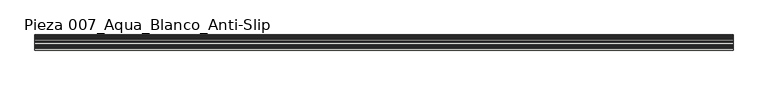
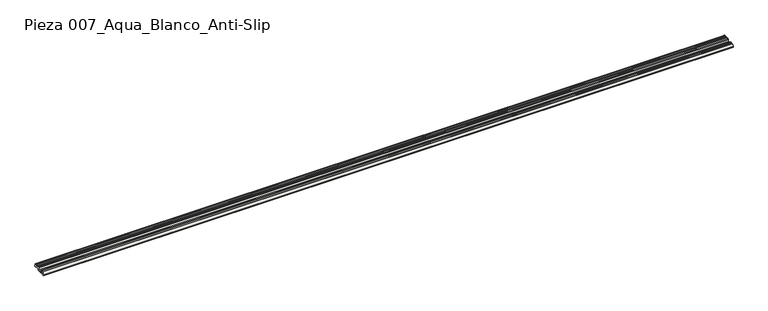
"""IFC4 building model written with IfcOpenShell, lengths in millimetres: slab geometry, ROSA GRES_007 : Pieza 007_Aqua_Blanco_Anti-Slip."""

from ifc_helpers import new_model, si_unit, point, frame, frame_2d, origin, place, context, project, spatial, polyline, circle_curve, trimmed, segment, composite_curve, outline, extrude, source, transform, mapped, element, save


def pieza_007_aqua_blanco_anti_slip_1883729b(model_context):
    return source(origin(), model_context, "Body", "SweptSolid", [
        extrude(outline(composite_curve([segment(polyline([(14.3742659, 174.3159971), (0.6896004, 173.202129), (-0.0710994, 182.547869)]), True, "CONTINUOUS"), segment(trimmed(circle_curve(frame_2d((15.1536138, 183.7870899)), 15.2750633), [point((-0.0710994, 182.547869))], [point((12.7748841, 198.875801))], False, "CARTESIAN"), True, "CONTINUOUS"), segment(polyline([(12.7748841, 198.875801), (16.9364731, 199.1796191)]), True, "CONTINUOUS"), segment(trimmed(circle_curve(frame_2d((20.3008643, 202.7650351)), 4.9167404), [point((16.9364731, 199.1796191))], [point((24.7247274, 200.6193952))], True, "CARTESIAN"), True, "CONTINUOUS"), segment(trimmed(circle_curve(frame_2d((27.3971937, 201.142641)), 2.7232081), [point((24.7247274, 200.6193952))], [point((29.9345538, 200.1538709))], True, "CARTESIAN"), True, "CONTINUOUS"), segment(polyline([(29.9345538, 200.1538709), (33.8762309, 200.4746837), (37.1820416, 176.172444)]), True, "CONTINUOUS"), segment(trimmed(circle_curve(frame_2d((25.9545763, 173.0767428)), 11.6464304), [point((37.1820416, 176.172444))], [point((14.3742659, 174.3159971))], True, "CARTESIAN"), True, "CONTINUOUS")], self_intersect=False)), frame((0.0, 0.0, 0.0), z_axis=(1.0, 0.0, 0.0), x_axis=(0.0, 1.0, 0.0)), (0.0, 0.0, 1.0), 5498.835331),
        extrude(outline(composite_curve([segment(polyline([(71.8498608, 178.9942432), (37.1820416, 176.172444), (33.8762309, 200.4746837)]), True, "CONTINUOUS"), segment(trimmed(circle_curve(frame_2d((106.9597263, 233.2212806)), 80.084561), [point((33.8762309, 200.4746837))], [point((40.9402045, 187.8896178))], True, "CARTESIAN"), True, "CONTINUOUS"), segment(trimmed(circle_curve(frame_2d((43.5817022, 189.3117604)), 3.0), [point((40.9402045, 187.8896178))], [point((43.8250834, 186.3216491))], True, "CARTESIAN"), True, "CONTINUOUS"), segment(polyline([(43.8250834, 186.3216491), (61.867532, 187.7902205)]), True, "CONTINUOUS"), segment(trimmed(circle_curve(frame_2d((57.0579989, 199.0821231)), 12.2734948), [point((61.867532, 187.7902205))], [point((69.3023399, 198.236672))], True, "CARTESIAN"), True, "CONTINUOUS"), segment(polyline([(69.3023399, 198.236672), (69.6579726, 203.3871621), (73.3820924, 203.6902881)]), True, "CONTINUOUS"), segment(trimmed(circle_curve(frame_2d((76.8218788, 206.722806)), 4.5856619), [point((73.3820924, 203.6902881))], [point((81.0271834, 204.8942251))], True, "CARTESIAN"), True, "CONTINUOUS"), segment(trimmed(circle_curve(frame_2d((84.8780848, 207.3839748)), 4.5856619), [point((81.0271834, 204.8942251))], [point((89.0833894, 205.555394))], True, "CARTESIAN"), True, "CONTINUOUS"), segment(trimmed(circle_curve(frame_2d((92.9342908, 208.0451437)), 4.5856619), [point((89.0833894, 205.555394))], [point((97.1292049, 206.1928503))], True, "CARTESIAN"), True, "CONTINUOUS"), segment(trimmed(circle_curve(frame_2d((100.9933064, 209.1504161)), 4.8660534), [point((97.1292049, 206.1928503))], [point((105.2742048, 206.836894))], True, "CARTESIAN"), True, "CONTINUOUS"), segment(trimmed(circle_curve(frame_2d((109.1074243, 209.7932705)), 4.8408403), [point((105.2742048, 206.836894))], [point((113.0660814, 207.0070959))], True, "CARTESIAN"), True, "CONTINUOUS"), segment(polyline([(113.0660814, 207.0070959), (115.3491545, 207.1930072), (115.5338707, 204.9236084), (117.4809059, 205.0820876), (119.2900344, 182.8556525), (108.342302, 181.9645582)]), True, "CONTINUOUS"), segment(trimmed(circle_curve(frame_2d((91.1625174, 167.3774726)), 22.5372595), [point((108.342302, 181.9645582))], [point((71.8498608, 178.9942432))], True, "CARTESIAN"), True, "CONTINUOUS")], self_intersect=False)), frame((0.0, 0.0, 0.0), z_axis=(1.0, 0.0, 0.0), x_axis=(0.0, 1.0, 0.0)), (0.0, 0.0, 1.0), 5498.835331),
    ])


if __name__ == "__main__":
    model = new_model("IFC4")
    model_context = context("Model", 3, world=origin())
    ifc_project = project(units=[si_unit("LENGTHUNIT", "METRE", prefix="MILLI")], contexts=[model_context])
    site = spatial("IfcSite", under=ifc_project)
    building = spatial("IfcBuilding", under=site)
    placement = place(None, origin())
    pieza_007_aqua_blanco_anti_slip_shape = pieza_007_aqua_blanco_anti_slip_1883729b(model_context)
    element("IfcSlab", 1, ObjectType="ROSA GRES_007 : Pieza 007_Aqua_Blanco_Anti-Slip", at=placement, inside=building, context=model_context, shape_type="MappedRepresentation", body=[
        mapped(pieza_007_aqua_blanco_anti_slip_shape, transform((0.0, 0.0, 0.0), x_axis=(1.0, 0.0, 0.0), y_axis=(0.0, 1.0, 0.0), z_axis=(0.0, 0.0, 1.0))),
    ])
    save(model, "model.ifc")
